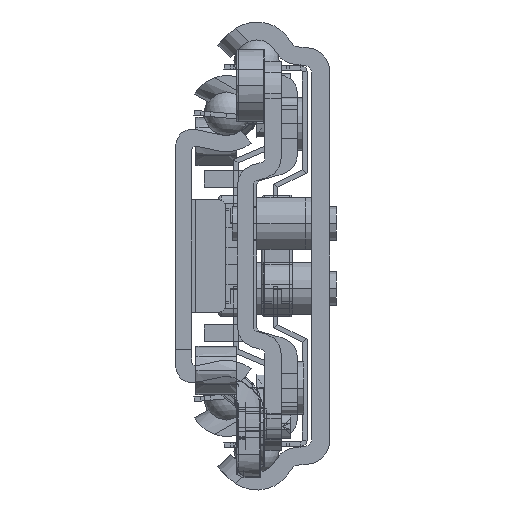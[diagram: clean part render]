
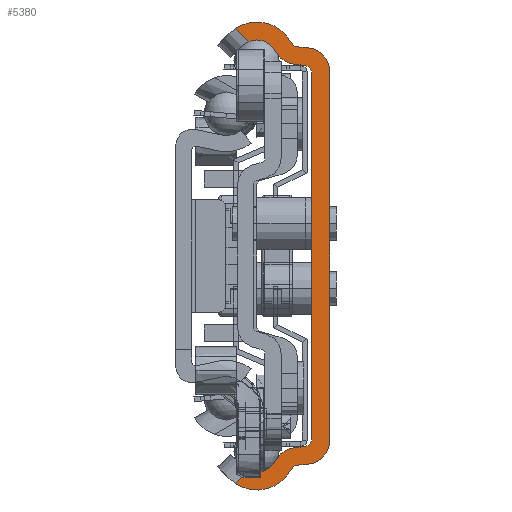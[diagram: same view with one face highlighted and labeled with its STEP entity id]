
A CAD part, left-side view. The second image highlights one B-rep face of the part: STEP entity #5380.
In plain terms, the highlighted planar face has unit normal (-1, 0, 0).
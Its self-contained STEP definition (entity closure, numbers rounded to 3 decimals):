
#1=DIRECTION('',(0.,0.717,-0.697));
#2=VECTOR('',#1,2.305);
#3=CARTESIAN_POINT('',(-700.,9.972,-26.461));
#4=LINE('',#3,#2);
#5=CARTESIAN_POINT('',(-700.,9.,-24.05));
#6=DIRECTION('',(-1.,0.,0.));
#7=DIRECTION('',(0.,0.374,-0.927));
#8=AXIS2_PLACEMENT_3D('',#5,#6,#7);
#10=CARTESIAN_POINT('',(-700.,4.005,-26.582));
#11=DIRECTION('',(-1.,0.,0.));
#12=DIRECTION('',(0.,0.07,0.998));
#13=AXIS2_PLACEMENT_3D('',#10,#11,#12);
#15=DIRECTION('',(0.,-0.998,0.07));
#16=VECTOR('',#15,1.087);
#17=CARTESIAN_POINT('',(-700.,4.214,-23.589));
#18=LINE('',#17,#16);
#19=DIRECTION('',(0.,0.,1.));
#20=VECTOR('',#19,45.032);
#21=CARTESIAN_POINT('',(-700.,2.2,-22.516));
#22=LINE('',#21,#20);
#23=DIRECTION('',(0.,0.998,0.07));
#24=VECTOR('',#23,1.087);
#25=CARTESIAN_POINT('',(-700.,3.13,23.514));
#26=LINE('',#25,#24);
#27=CARTESIAN_POINT('',(-700.,4.005,26.582));
#28=DIRECTION('',(-1.,0.,0.));
#29=DIRECTION('',(0.,0.892,-0.452));
#30=AXIS2_PLACEMENT_3D('',#27,#28,#29);
#32=CARTESIAN_POINT('',(-700.,9.,24.05));
#33=DIRECTION('',(-1.,0.,0.));
#34=DIRECTION('',(0.,-0.892,0.452));
#35=AXIS2_PLACEMENT_3D('',#32,#33,#34);
#37=DIRECTION('',(0.,-0.717,-0.697));
#38=VECTOR('',#37,2.305);
#39=CARTESIAN_POINT('',(-700.,11.624,28.069));
#40=LINE('',#39,#38);
#41=CARTESIAN_POINT('',(-700.,9.,24.05));
#42=DIRECTION('',(1.,0.,0.));
#43=DIRECTION('',(0.,0.547,0.837));
#44=AXIS2_PLACEMENT_3D('',#41,#42,#43);
#46=DIRECTION('',(0.,-0.998,-0.07));
#47=VECTOR('',#46,1.161);
#48=CARTESIAN_POINT('',(-700.,3.949,25.776));
#49=LINE('',#48,#47);
#50=CARTESIAN_POINT('',(-700.,3.,22.702));
#51=DIRECTION('',(-1.,0.,0.));
#52=DIRECTION('',(0.,-1.,0.));
#53=AXIS2_PLACEMENT_3D('',#50,#51,#52);
#55=DIRECTION('',(0.,0.,-1.));
#56=VECTOR('',#55,45.405);
#57=CARTESIAN_POINT('',(-700.,0.,22.702));
#58=LINE('',#57,#56);
#59=CARTESIAN_POINT('',(-700.,3.,-22.702));
#60=DIRECTION('',(-1.,0.,0.));
#61=DIRECTION('',(0.,-0.07,-0.998));
#62=AXIS2_PLACEMENT_3D('',#59,#60,#61);
#64=DIRECTION('',(0.,0.998,-0.07));
#65=VECTOR('',#64,1.161);
#66=CARTESIAN_POINT('',(-700.,2.791,-25.695));
#67=LINE('',#66,#65);
#68=CARTESIAN_POINT('',(-700.,9.,-24.05));
#69=DIRECTION('',(1.,0.,0.));
#70=DIRECTION('',(0.,-0.883,-0.47));
#71=AXIS2_PLACEMENT_3D('',#68,#69,#70);
#79=CARTESIAN_POINT('',(-700.,11.624,-28.069));
#103=CARTESIAN_POINT('',(-700.,9.972,-26.461));
#195=CARTESIAN_POINT('',(-700.,11.624,28.069));
#201=CARTESIAN_POINT('',(-700.,3.879,26.774));
#202=DIRECTION('',(1.,0.,0.));
#203=DIRECTION('',(0.,0.07,-0.998));
#204=AXIS2_PLACEMENT_3D('',#201,#202,#203);
#1227=CARTESIAN_POINT('',(-700.,3.879,-26.774));
#1228=DIRECTION('',(1.,0.,0.));
#1229=DIRECTION('',(0.,0.883,0.47));
#1230=AXIS2_PLACEMENT_3D('',#1227,#1228,#1229);
#2322=CARTESIAN_POINT('',(-700.,3.2,-22.516));
#2323=DIRECTION('',(1.,0.,0.));
#2324=DIRECTION('',(0.,-1.,0.));
#2325=AXIS2_PLACEMENT_3D('',#2322,#2323,#2324);
#2340=CARTESIAN_POINT('',(-700.,3.2,22.516));
#2341=DIRECTION('',(1.,0.,0.));
#2342=DIRECTION('',(0.,-0.07,0.998));
#2343=AXIS2_PLACEMENT_3D('',#2340,#2341,#2342);
#2364=CARTESIAN_POINT('',(-700.,9.972,26.461));
#4197=CARTESIAN_POINT('',(-700.,2.2,-22.516));
#4199=VERTEX_POINT('',#4197);
#4201=CARTESIAN_POINT('',(-700.,3.13,-23.514));
#4203=VERTEX_POINT('',#4201);
#4205=CARTESIAN_POINT('',(-700.,3.13,23.514));
#4207=VERTEX_POINT('',#4205);
#4209=CARTESIAN_POINT('',(-700.,2.2,22.516));
#4211=VERTEX_POINT('',#4209);
#4213=CARTESIAN_POINT('',(-700.,3.949,25.776));
#4215=VERTEX_POINT('',#4213);
#4217=CARTESIAN_POINT('',(-700.,4.762,26.304));
#4219=VERTEX_POINT('',#4217);
#4221=CARTESIAN_POINT('',(-700.,4.762,-26.304));
#4223=VERTEX_POINT('',#4221);
#4225=CARTESIAN_POINT('',(-700.,3.949,-25.776));
#4227=VERTEX_POINT('',#4225);
#4229=CARTESIAN_POINT('',(-700.,4.214,-23.589));
#4230=CARTESIAN_POINT('',(-700.,6.681,-25.226));
#4231=VERTEX_POINT('',#4229);
#4232=VERTEX_POINT('',#4230);
#4237=CARTESIAN_POINT('',(-700.,6.681,25.226));
#4238=CARTESIAN_POINT('',(-700.,4.214,23.589));
#4239=VERTEX_POINT('',#4237);
#4240=VERTEX_POINT('',#4238);
#4245=CARTESIAN_POINT('',(-700.,0.,22.702));
#4246=CARTESIAN_POINT('',(-700.,2.791,25.695));
#4247=VERTEX_POINT('',#4245);
#4248=VERTEX_POINT('',#4246);
#4253=CARTESIAN_POINT('',(-700.,2.791,-25.695));
#4254=CARTESIAN_POINT('',(-700.,0.,-22.702));
#4255=VERTEX_POINT('',#4253);
#4256=VERTEX_POINT('',#4254);
#4603=VERTEX_POINT('',#79);
#4611=VERTEX_POINT('',#103);
#4612=VERTEX_POINT('',#2364);
#4620=VERTEX_POINT('',#195);
#5333=CARTESIAN_POINT('',(-700.,0.,0.));
#5334=DIRECTION('',(1.,0.,0.));
#5335=DIRECTION('',(0.,-1.,0.));
#5336=AXIS2_PLACEMENT_3D('',#5333,#5334,#5335);
#5337=PLANE('',#5336);
#5339=ORIENTED_EDGE('',*,*,#5338,.F.);
#5341=ORIENTED_EDGE('',*,*,#5340,.T.);
#5343=ORIENTED_EDGE('',*,*,#5342,.F.);
#5345=ORIENTED_EDGE('',*,*,#5344,.T.);
#5347=ORIENTED_EDGE('',*,*,#5346,.F.);
#5349=ORIENTED_EDGE('',*,*,#5348,.T.);
#5351=ORIENTED_EDGE('',*,*,#5350,.F.);
#5353=ORIENTED_EDGE('',*,*,#5352,.T.);
#5355=ORIENTED_EDGE('',*,*,#5354,.F.);
#5357=ORIENTED_EDGE('',*,*,#5356,.T.);
#5359=ORIENTED_EDGE('',*,*,#5358,.F.);
#5361=ORIENTED_EDGE('',*,*,#5360,.T.);
#5363=ORIENTED_EDGE('',*,*,#5362,.F.);
#5365=ORIENTED_EDGE('',*,*,#5364,.T.);
#5367=ORIENTED_EDGE('',*,*,#5366,.F.);
#5369=ORIENTED_EDGE('',*,*,#5368,.T.);
#5371=ORIENTED_EDGE('',*,*,#5370,.F.);
#5373=ORIENTED_EDGE('',*,*,#5372,.T.);
#5375=ORIENTED_EDGE('',*,*,#5374,.F.);
#5377=ORIENTED_EDGE('',*,*,#5376,.T.);
#5378=EDGE_LOOP('',(#5339,#5341,#5343,#5345,#5347,#5349,#5351,#5353,#5355,#5357,
#5359,#5361,#5363,#5365,#5367,#5369,#5371,#5373,#5375,#5377));
#5379=FACE_OUTER_BOUND('',#5378,.F.);
#5380=ADVANCED_FACE('',(#5379),#5337,.F.);
#9=CIRCLE('',#8,2.6);
#14=CIRCLE('',#13,3.);
#31=CIRCLE('',#30,3.);
#36=CIRCLE('',#35,2.6);
#45=CIRCLE('',#44,4.8);
#54=CIRCLE('',#53,3.);
#63=CIRCLE('',#62,3.);
#72=CIRCLE('',#71,4.8);
#205=CIRCLE('',#204,1.);
#1231=CIRCLE('',#1230,1.);
#2326=CIRCLE('',#2325,1.);
#2344=CIRCLE('',#2343,1.);
#5338=EDGE_CURVE('',#4611,#4603,#4,.T.);
#5340=EDGE_CURVE('',#4611,#4232,#9,.T.);
#5342=EDGE_CURVE('',#4231,#4232,#14,.T.);
#5344=EDGE_CURVE('',#4231,#4203,#18,.T.);
#5346=EDGE_CURVE('',#4199,#4203,#2326,.T.);
#5348=EDGE_CURVE('',#4199,#4211,#22,.T.);
#5350=EDGE_CURVE('',#4207,#4211,#2344,.T.);
#5352=EDGE_CURVE('',#4207,#4240,#26,.T.);
#5354=EDGE_CURVE('',#4239,#4240,#31,.T.);
#5356=EDGE_CURVE('',#4239,#4612,#36,.T.);
#5358=EDGE_CURVE('',#4620,#4612,#40,.T.);
#5360=EDGE_CURVE('',#4620,#4219,#45,.T.);
#5362=EDGE_CURVE('',#4215,#4219,#205,.T.);
#5364=EDGE_CURVE('',#4215,#4248,#49,.T.);
#5366=EDGE_CURVE('',#4247,#4248,#54,.T.);
#5368=EDGE_CURVE('',#4247,#4256,#58,.T.);
#5370=EDGE_CURVE('',#4255,#4256,#63,.T.);
#5372=EDGE_CURVE('',#4255,#4227,#67,.T.);
#5374=EDGE_CURVE('',#4223,#4227,#1231,.T.);
#5376=EDGE_CURVE('',#4223,#4603,#72,.T.);
